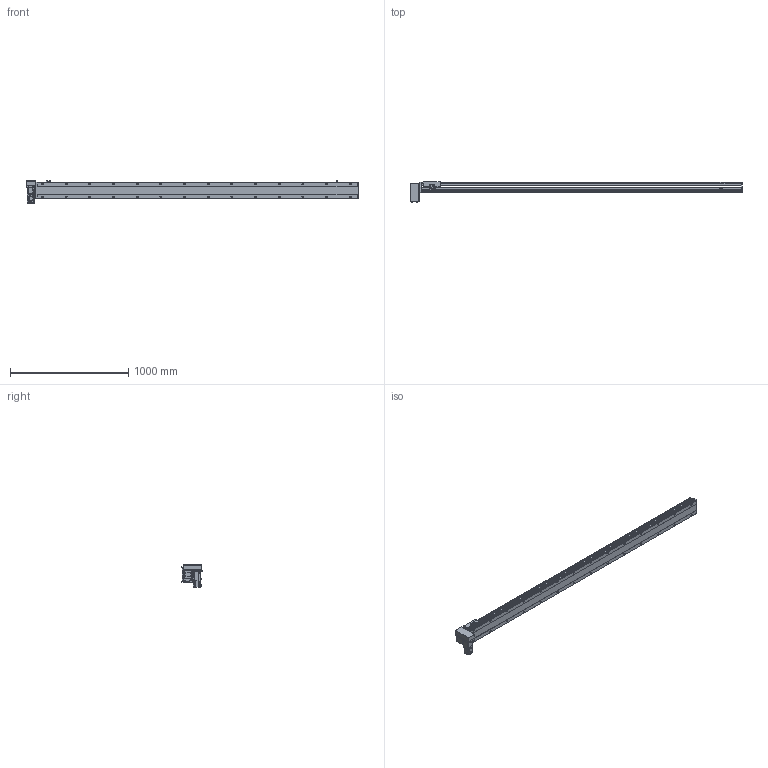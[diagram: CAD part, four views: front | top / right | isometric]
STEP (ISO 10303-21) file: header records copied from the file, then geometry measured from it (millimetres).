
FILE_DESCRIPTION(/* description */ ('STEP AP214'),/* implementation_level */ '2;1');
FILE_NAME(/* name */ 'PBS140S-P40-S2450-RD-T40-C1-N(0)',/* time_stamp */ '2022-06-09T02:47:58+02:00',/* author */ ('License CC BY-ND 4.0'),/* organization */ ('CADENAS'),/* preprocessor_version */ 'ST-DEVELOPER v18.102',/* originating_system */ 'PARTsolutions',/* authorisation */ ' ');
FILE_SCHEMA (('AUTOMOTIVE_DESIGN {1 0 10303 214 3 1 1}'));
Length unit declared in the file: millimetre
Products named in the file (7): PBS140S-P40-S2450-RD-T40-C1-N(0); PBS140S_sensor; PBS140S_plant; PBS140S_sliser; T40-p1; PBS140ST-RD_motors; PBS140S-S2450()_body
Assembly tree (8 placements, depth 2):
  PBS140S-P40-S2450-RD-T40-C1-N(0)
    PBS140S_sensor  x3
    PBS140S_plant
    PBS140S_sliser
    T40-p1
    PBS140ST-RD_motors
    PBS140S-S2450()_body
Bounding box: 2804 x 172.5 x 189.7 mm (x, y, z)
Volume: 13643726.8 mm3; surface area: 2299020.8 mm2
Topology: 8 solids, 8 shells, 1195 faces, 3151 edges, 2061 vertices
Faces by surface type: plane 738, cylinder 393, cone 54, sphere 8, torus 2
Full cylindrical faces by diameter (mm): 3.242 x4, 4 x2, 4.134 x4, 4.4 x8, 4.5 x2, 4.8 x4, 4.917 x36, 5.5 x7, 6 x2, 7 x30, 7.5 x8, 8 x12, 8.5 x4, 10.5 x28, 14 x1, 30 x2, 50 x2
Entity records: 34244 total; most frequent: CARTESIAN_POINT 6488, DIRECTION 5768, ORIENTED_EDGE 5422, EDGE_CURVE 2711, AXIS2_PLACEMENT_3D 2039, VERTEX_POINT 1897, LINE 1690, VECTOR 1690
